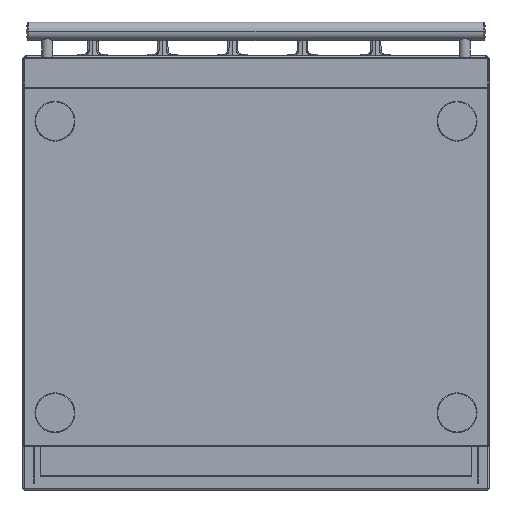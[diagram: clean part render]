
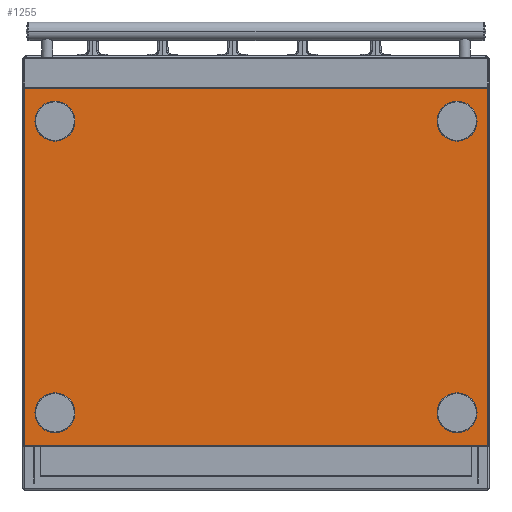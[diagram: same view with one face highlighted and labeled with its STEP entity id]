
A CAD part, front view. The second image highlights one B-rep face of the part: STEP entity #1255.
In plain terms, the highlighted planar face has unit normal (0, -1, 0).
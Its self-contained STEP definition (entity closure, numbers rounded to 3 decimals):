
#46=CARTESIAN_POINT('',(302.,-352.5,-219.));
#47=DIRECTION('',(0.,-1.,0.));
#48=DIRECTION('',(1.,0.,0.));
#49=AXIS2_PLACEMENT_3D('',#46,#47,#48);
#51=CARTESIAN_POINT('',(302.,-352.5,-219.));
#52=DIRECTION('',(0.,-1.,0.));
#53=DIRECTION('',(-1.,0.,0.));
#54=AXIS2_PLACEMENT_3D('',#51,#52,#53);
#56=CARTESIAN_POINT('',(302.,-352.5,219.));
#57=DIRECTION('',(0.,-1.,0.));
#58=DIRECTION('',(1.,0.,0.));
#59=AXIS2_PLACEMENT_3D('',#56,#57,#58);
#61=CARTESIAN_POINT('',(302.,-352.5,219.));
#62=DIRECTION('',(0.,-1.,0.));
#63=DIRECTION('',(-1.,0.,0.));
#64=AXIS2_PLACEMENT_3D('',#61,#62,#63);
#66=CARTESIAN_POINT('',(-302.,-352.5,-219.));
#67=DIRECTION('',(0.,1.,0.));
#68=DIRECTION('',(-1.,0.,0.));
#69=AXIS2_PLACEMENT_3D('',#66,#67,#68);
#71=CARTESIAN_POINT('',(-302.,-352.5,-219.));
#72=DIRECTION('',(0.,1.,0.));
#73=DIRECTION('',(1.,0.,0.));
#74=AXIS2_PLACEMENT_3D('',#71,#72,#73);
#76=CARTESIAN_POINT('',(-302.,-352.5,219.));
#77=DIRECTION('',(0.,1.,0.));
#78=DIRECTION('',(-1.,0.,0.));
#79=AXIS2_PLACEMENT_3D('',#76,#77,#78);
#81=CARTESIAN_POINT('',(-302.,-352.5,219.));
#82=DIRECTION('',(0.,1.,0.));
#83=DIRECTION('',(1.,0.,0.));
#84=AXIS2_PLACEMENT_3D('',#81,#82,#83);
#86=DIRECTION('',(0.,0.,-1.));
#87=VECTOR('',#86,536.4);
#88=CARTESIAN_POINT('',(347.2,-352.5,268.2));
#89=LINE('',#88,#87);
#90=DIRECTION('',(-1.,0.,0.));
#91=VECTOR('',#90,694.4);
#92=CARTESIAN_POINT('',(347.2,-352.5,-268.2));
#93=LINE('',#92,#91);
#94=DIRECTION('',(0.,0.,1.));
#95=VECTOR('',#94,536.4);
#96=CARTESIAN_POINT('',(-347.2,-352.5,-268.2));
#97=LINE('',#96,#95);
#98=DIRECTION('',(-1.,0.,0.));
#99=VECTOR('',#98,694.4);
#100=CARTESIAN_POINT('',(347.2,-352.5,268.2));
#101=LINE('',#100,#99);
#961=CARTESIAN_POINT('',(332.,-352.5,-219.));
#962=CARTESIAN_POINT('',(272.,-352.5,-219.));
#963=VERTEX_POINT('',#961);
#964=VERTEX_POINT('',#962);
#993=CARTESIAN_POINT('',(347.2,-352.5,268.2));
#994=CARTESIAN_POINT('',(347.2,-352.5,-268.2));
#995=VERTEX_POINT('',#993);
#996=VERTEX_POINT('',#994);
#999=CARTESIAN_POINT('',(-347.2,-352.5,268.2));
#1000=VERTEX_POINT('',#999);
#1003=CARTESIAN_POINT('',(-347.2,-352.5,-268.2));
#1004=VERTEX_POINT('',#1003);
#1061=CARTESIAN_POINT('',(332.,-352.5,219.));
#1062=CARTESIAN_POINT('',(272.,-352.5,219.));
#1063=VERTEX_POINT('',#1061);
#1064=VERTEX_POINT('',#1062);
#1069=CARTESIAN_POINT('',(-332.,-352.5,-219.));
#1070=VERTEX_POINT('',#1069);
#1071=CARTESIAN_POINT('',(-272.,-352.5,-219.));
#1072=VERTEX_POINT('',#1071);
#1077=CARTESIAN_POINT('',(-332.,-352.5,219.));
#1078=VERTEX_POINT('',#1077);
#1079=CARTESIAN_POINT('',(-272.,-352.5,219.));
#1080=VERTEX_POINT('',#1079);
#1217=CARTESIAN_POINT('',(-349.,-352.5,270.));
#1218=DIRECTION('',(0.,-1.,0.));
#1219=DIRECTION('',(0.,0.,-1.));
#1220=AXIS2_PLACEMENT_3D('',#1217,#1218,#1219);
#1221=PLANE('',#1220);
#1223=ORIENTED_EDGE('',*,*,#1222,.T.);
#1225=ORIENTED_EDGE('',*,*,#1224,.T.);
#1227=ORIENTED_EDGE('',*,*,#1226,.T.);
#1228=ORIENTED_EDGE('',*,*,#1206,.F.);
#1229=EDGE_LOOP('',(#1223,#1225,#1227,#1228));
#1230=FACE_OUTER_BOUND('',#1229,.F.);
#1232=ORIENTED_EDGE('',*,*,#1231,.T.);
#1234=ORIENTED_EDGE('',*,*,#1233,.T.);
#1235=EDGE_LOOP('',(#1232,#1234));
#1236=FACE_BOUND('',#1235,.F.);
#1238=ORIENTED_EDGE('',*,*,#1237,.F.);
#1240=ORIENTED_EDGE('',*,*,#1239,.F.);
#1241=EDGE_LOOP('',(#1238,#1240));
#1242=FACE_BOUND('',#1241,.F.);
#1244=ORIENTED_EDGE('',*,*,#1243,.F.);
#1246=ORIENTED_EDGE('',*,*,#1245,.F.);
#1247=EDGE_LOOP('',(#1244,#1246));
#1248=FACE_BOUND('',#1247,.F.);
#1250=ORIENTED_EDGE('',*,*,#1249,.T.);
#1252=ORIENTED_EDGE('',*,*,#1251,.T.);
#1253=EDGE_LOOP('',(#1250,#1252));
#1254=FACE_BOUND('',#1253,.F.);
#50=CIRCLE('',#49,30.);
#55=CIRCLE('',#54,30.);
#60=CIRCLE('',#59,30.);
#65=CIRCLE('',#64,30.);
#70=CIRCLE('',#69,30.);
#75=CIRCLE('',#74,30.);
#80=CIRCLE('',#79,30.);
#85=CIRCLE('',#84,30.);
#1206=EDGE_CURVE('',#995,#1000,#101,.T.);
#1222=EDGE_CURVE('',#995,#996,#89,.T.);
#1224=EDGE_CURVE('',#996,#1004,#93,.T.);
#1226=EDGE_CURVE('',#1004,#1000,#97,.T.);
#1231=EDGE_CURVE('',#1063,#1064,#60,.T.);
#1233=EDGE_CURVE('',#1064,#1063,#65,.T.);
#1237=EDGE_CURVE('',#1070,#1072,#70,.T.);
#1239=EDGE_CURVE('',#1072,#1070,#75,.T.);
#1243=EDGE_CURVE('',#1078,#1080,#80,.T.);
#1245=EDGE_CURVE('',#1080,#1078,#85,.T.);
#1249=EDGE_CURVE('',#963,#964,#50,.T.);
#1251=EDGE_CURVE('',#964,#963,#55,.T.);
#1255=ADVANCED_FACE('',(#1230,#1236,#1242,#1248,#1254),#1221,.T.);
